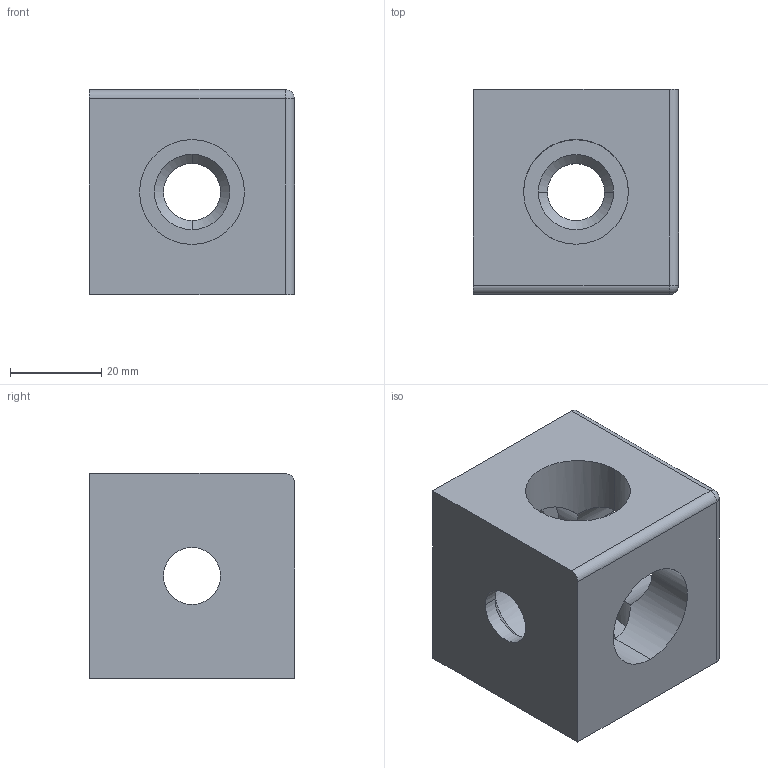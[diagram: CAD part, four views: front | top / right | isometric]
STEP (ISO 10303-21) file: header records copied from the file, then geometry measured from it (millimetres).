
FILE_DESCRIPTION (( 'STEP AP214' ), '1' );
FILE_NAME ('2073.STEP', '2019-12-16T09:41:56', ( '' ), ( '' ), 'SwSTEP 2.0', 'SolidWorks 2014', '' );
FILE_SCHEMA (( 'AUTOMOTIVE_DESIGN' ));
Length unit declared in the file: millimetre
Products named in the file (2): 2073
Bounding box: 45 x 45 x 45 mm (x, y, z)
Volume: 56258.6 mm3; surface area: 15943.4 mm2
Topology: 1 solids, 1 shells, 37 faces, 100 edges, 63 vertices
Faces by surface type: cylinder 21, plane 9, cone 6, sphere 1
Entity records: 1226 total; most frequent: CARTESIAN_POINT 273, ORIENTED_EDGE 198, DIRECTION 189, EDGE_CURVE 99, AXIS2_PLACEMENT_3D 75, VERTEX_POINT 63, EDGE_LOOP 46, LINE 39
